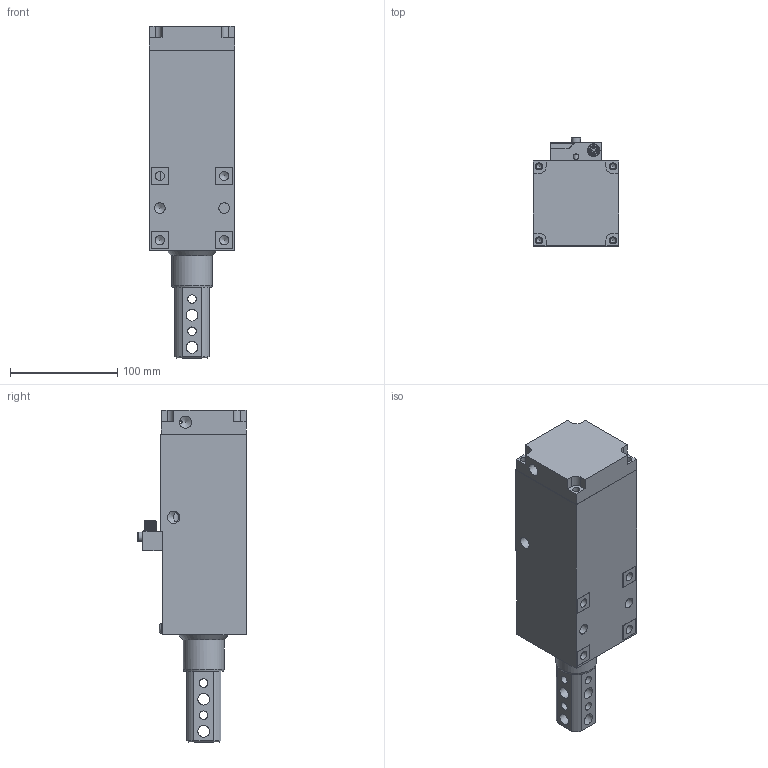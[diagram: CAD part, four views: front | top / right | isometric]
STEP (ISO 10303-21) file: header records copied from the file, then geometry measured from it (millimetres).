
FILE_DESCRIPTION(/* description */ (''),/* implementation_level */ '2;1');
FILE_NAME(/* name */ 'M:\cad\PRODUCT\LSA\LSA - 95\STEP\LSA-95\25mm Stroke\LSA-95 25mm Stroke - Extend.stp',/* time_stamp */ '2018-04-20T08:53:56-04:00',/* author */ ('Tyler'),/* organization */ (''),/* preprocessor_version */ 'ST-DEVELOPER v17',/* originating_system */ 'Autodesk Inventor 2018',/* authorisation */ '');
FILE_SCHEMA (('AUTOMOTIVE_DESIGN { 1 0 10303 214 3 1 1 }'));
Length unit declared in the file: inch
Products named in the file (2): LSA-95  25_50 Stroke - Stripped for STEP; LSA-95  25_50 Stroke - Stripped for STEP_25 Extend
Assembly tree (1 placements, depth 2):
  LSA-95  25_50 Stroke - Stripped for STEP
    LSA-95  25_50 Stroke - Stripped for STEP_25 Extend
Bounding box: 80.01 x 101.81 x 310.06 mm (x, y, z)
Volume: 1007460.8 mm3; surface area: 189396.2 mm2
Topology: 2 solids, 2 shells, 410 faces, 1205 edges, 815 vertices
Faces by surface type: plane 192, cylinder 156, cone 54, torus 8
Full cylindrical faces by diameter (mm): 1 x8, 1.191 x1, 2 x2, 2.383 x2, 3.175 x2, 3.264 x6, 3.302 x1, 4.928 x4, 5 x1, 5.3 x4, 6.35 x3, 6.5 x4, 8.019 x8, 8.3 x1, 8.382 x4, 8.5 x1, 9.5 x1, 10.02 x2, 10.16 x1, 10.312 x1, 10.5 x1, 10.998 x8, 11.455 x5, 11.76 x1, 11.811 x1, 12 x1, 15.875 x2, 17.78 x1, 22.86 x1, 38.087 x1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
Entity records: 14961 total; most frequent: CARTESIAN_POINT 3022, DIRECTION 2482, ORIENTED_EDGE 2376, EDGE_CURVE 1188, AXIS2_PLACEMENT_3D 943, VERTEX_POINT 815, LINE 596, VECTOR 596
